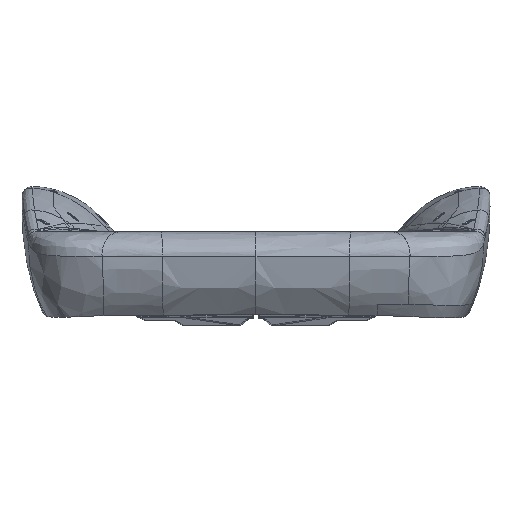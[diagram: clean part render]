
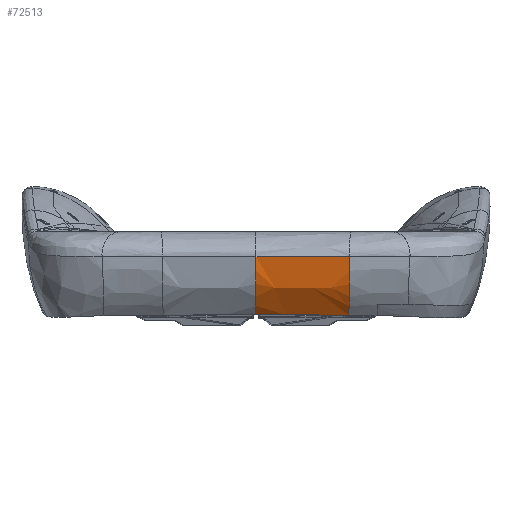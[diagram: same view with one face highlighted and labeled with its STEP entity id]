
A CAD part, left-side view. The second image highlights one B-rep face of the part: STEP entity #72513.
In plain terms, the highlighted free-form (B-spline) face has degree [5, 2] with [6, 3] control points.
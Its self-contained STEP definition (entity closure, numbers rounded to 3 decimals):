
#42556=CARTESIAN_POINT('Vertex',(-505.173,-741.075,366.015)) ;
#42560=CARTESIAN_POINT('Control Point',(-505.173,-741.075,366.015)) ;
#42561=CARTESIAN_POINT('Control Point',(-505.173,-751.065,366.015)) ;
#42562=CARTESIAN_POINT('Control Point',(-505.118,-761.055,366.016)) ;
#42563=CARTESIAN_POINT('Control Point',(-505.006,-771.045,366.018)) ;
#42564=CARTESIAN_POINT('Control Point',(-504.755,-786.027,366.023)) ;
#42565=CARTESIAN_POINT('Control Point',(-504.378,-801.008,366.03)) ;
#42566=CARTESIAN_POINT('Control Point',(-504.239,-806.001,366.033)) ;
#42567=CARTESIAN_POINT('Control Point',(-503.932,-815.986,366.039)) ;
#42568=CARTESIAN_POINT('Control Point',(-503.569,-825.969,366.046)) ;
#42569=CARTESIAN_POINT('Control Point',(-503.374,-830.961,366.05)) ;
#42570=CARTESIAN_POINT('Control Point',(-503.165,-835.951,366.054)) ;
#42571=CARTESIAN_POINT('Control Point',(-502.942,-840.942,366.059)) ;
#42572=CARTESIAN_POINT('Vertex',(-502.942,-840.942,366.054)) ;
#72455=CARTESIAN_POINT('Control Point',(-505.173,-741.076,366.015)) ;
#72456=CARTESIAN_POINT('Control Point',(-503.587,-741.076,330.564)) ;
#72457=CARTESIAN_POINT('Control Point',(-476.377,-741.076,304.08)) ;
#72458=CARTESIAN_POINT('Control Point',(-505.173,-761.055,366.015)) ;
#72459=CARTESIAN_POINT('Control Point',(-503.586,-761.06,330.559)) ;
#72460=CARTESIAN_POINT('Control Point',(-476.375,-760.804,304.072)) ;
#72461=CARTESIAN_POINT('Control Point',(-504.95,-781.034,366.019)) ;
#72462=CARTESIAN_POINT('Control Point',(-503.363,-781.044,330.573)) ;
#72463=CARTESIAN_POINT('Control Point',(-476.247,-780.532,304.03)) ;
#72464=CARTESIAN_POINT('Control Point',(-504.503,-801.017,366.028)) ;
#72465=CARTESIAN_POINT('Control Point',(-502.917,-801.033,330.603)) ;
#72466=CARTESIAN_POINT('Control Point',(-475.993,-800.266,303.952)) ;
#72467=CARTESIAN_POINT('Control Point',(-503.834,-820.984,366.041)) ;
#72468=CARTESIAN_POINT('Control Point',(-502.248,-821.009,330.647)) ;
#72469=CARTESIAN_POINT('Control Point',(-475.603,-819.989,303.842)) ;
#72470=CARTESIAN_POINT('Control Point',(-502.942,-840.942,366.059)) ;
#72471=CARTESIAN_POINT('Control Point',(-501.357,-840.976,330.694)) ;
#72472=CARTESIAN_POINT('Control Point',(-475.053,-839.707,303.698)) ;
#72474=CARTESIAN_POINT('Control Point',(-505.173,-741.076,366.015)) ;
#72475=CARTESIAN_POINT('Control Point',(-503.587,-741.076,330.564)) ;
#72476=CARTESIAN_POINT('Control Point',(-476.377,-741.076,304.08)) ;
#72477=CARTESIAN_POINT('Vertex',(-476.377,-741.076,304.08)) ;
#72481=CARTESIAN_POINT('Control Point',(-476.377,-741.076,304.08)) ;
#72482=CARTESIAN_POINT('Control Point',(-476.376,-747.458,304.077)) ;
#72483=CARTESIAN_POINT('Control Point',(-476.363,-753.84,304.071)) ;
#72484=CARTESIAN_POINT('Control Point',(-476.335,-760.222,304.061)) ;
#72485=CARTESIAN_POINT('Control Point',(-476.295,-766.605,304.048)) ;
#72486=CARTESIAN_POINT('Control Point',(-476.241,-772.988,304.031)) ;
#72487=CARTESIAN_POINT('Vertex',(-476.241,-772.988,304.031)) ;
#72491=CARTESIAN_POINT('Control Point',(-476.241,-772.988,304.031)) ;
#72492=CARTESIAN_POINT('Control Point',(-476.129,-786.334,303.996)) ;
#72493=CARTESIAN_POINT('Control Point',(-475.957,-799.681,303.944)) ;
#72494=CARTESIAN_POINT('Control Point',(-475.724,-813.026,303.877)) ;
#72495=CARTESIAN_POINT('Control Point',(-475.425,-826.368,303.795)) ;
#72496=CARTESIAN_POINT('Control Point',(-475.053,-839.707,303.698)) ;
#72497=CARTESIAN_POINT('Vertex',(-475.053,-839.707,303.698)) ;
#72501=CARTESIAN_POINT('Control Point',(-502.942,-840.94,366.054)) ;
#72502=CARTESIAN_POINT('Control Point',(-501.884,-840.965,342.481)) ;
#72503=CARTESIAN_POINT('Control Point',(-492.588,-840.553,321.695)) ;
#72504=CARTESIAN_POINT('Control Point',(-475.053,-839.707,303.698)) ;
#72507=ORIENTED_EDGE('',*,*,#42574,.F.) ;
#72508=ORIENTED_EDGE('',*,*,#72479,.T.) ;
#72509=ORIENTED_EDGE('',*,*,#72489,.T.) ;
#72510=ORIENTED_EDGE('',*,*,#72499,.T.) ;
#72511=ORIENTED_EDGE('',*,*,#72505,.F.) ;
#72513=ADVANCED_FACE('\X2\575057AB\X0\-20210112',(#72512),#72454,.F.) ;
#42559=B_SPLINE_CURVE_WITH_KNOTS('',5,(#42560,#42561,#42562,#42563,#42564,#42565,#42566,#42567,#42568,#42569,#42570,#42571),.UNSPECIFIED.,.F.,.U.,(6,3,3,6),(0.,49.977,74.966,99.954),.UNSPECIFIED.) ;
#72473=B_SPLINE_CURVE_WITH_KNOTS('',2,(#72474,#72475,#72476),.UNSPECIFIED.,.F.,.U.,(3,3),(0.,73.343),.UNSPECIFIED.) ;
#72480=B_SPLINE_CURVE_WITH_KNOTS('',5,(#72481,#72482,#72483,#72484,#72485,#72486),.UNSPECIFIED.,.F.,.U.,(6,6),(0.,32.188),.UNSPECIFIED.) ;
#72490=B_SPLINE_CURVE_WITH_KNOTS('',5,(#72491,#72492,#72493,#72494,#72495,#72496),.UNSPECIFIED.,.F.,.U.,(6,6),(32.188,99.496),.UNSPECIFIED.) ;
#72500=B_SPLINE_CURVE_WITH_KNOTS('',3,(#72501,#72502,#72503,#72504),.UNSPECIFIED.,.F.,.U.,(4,4),(0.,101.885),.UNSPECIFIED.) ;
#72454=B_SPLINE_SURFACE_WITH_KNOTS('',5,2,((#72455,#72456,#72457),(#72458,#72459,#72460),(#72461,#72462,#72463),(#72464,#72465,#72466),(#72467,#72468,#72469),(#72470,#72471,#72472)),.UNSPECIFIED.,.F.,.F.,.U.,(6,6),(3,3),(0.,99.496),(0.,73.343),.UNSPECIFIED.) ;
#42574=EDGE_CURVE('',#42557,#42573,#42559,.T.) ;
#72479=EDGE_CURVE('',#42557,#72478,#72473,.T.) ;
#72489=EDGE_CURVE('',#72478,#72488,#72480,.T.) ;
#72499=EDGE_CURVE('',#72488,#72498,#72490,.T.) ;
#72505=EDGE_CURVE('',#42573,#72498,#72500,.T.) ;
#72506=EDGE_LOOP('',(#72507,#72508,#72509,#72510,#72511)) ;
#72512=FACE_OUTER_BOUND('',#72506,.T.) ;
#42557=VERTEX_POINT('',#42556) ;
#42573=VERTEX_POINT('',#42572) ;
#72478=VERTEX_POINT('',#72477) ;
#72488=VERTEX_POINT('',#72487) ;
#72498=VERTEX_POINT('',#72497) ;
